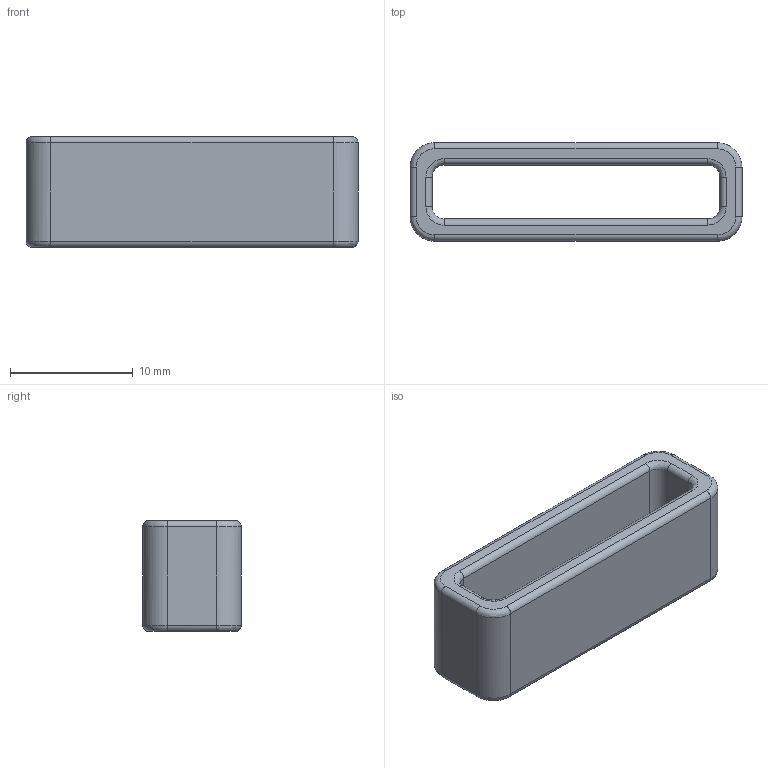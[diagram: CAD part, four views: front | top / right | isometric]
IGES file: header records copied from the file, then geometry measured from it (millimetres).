
Global section: file name: Passante; native system: Autodesk Inventor 2018; preprocessor: unknown; author: Alessia Buffagni; date: 20190730.153025; units: millimetre
Bounding box: 27 x 8 x 9 mm (x, y, z)
Volume: 981.3 mm3; surface area: 1253.3 mm2
Topology: 1 solids, 1 shells, 50 faces, 112 edges, 64 vertices
Faces by surface type: bspline 50
